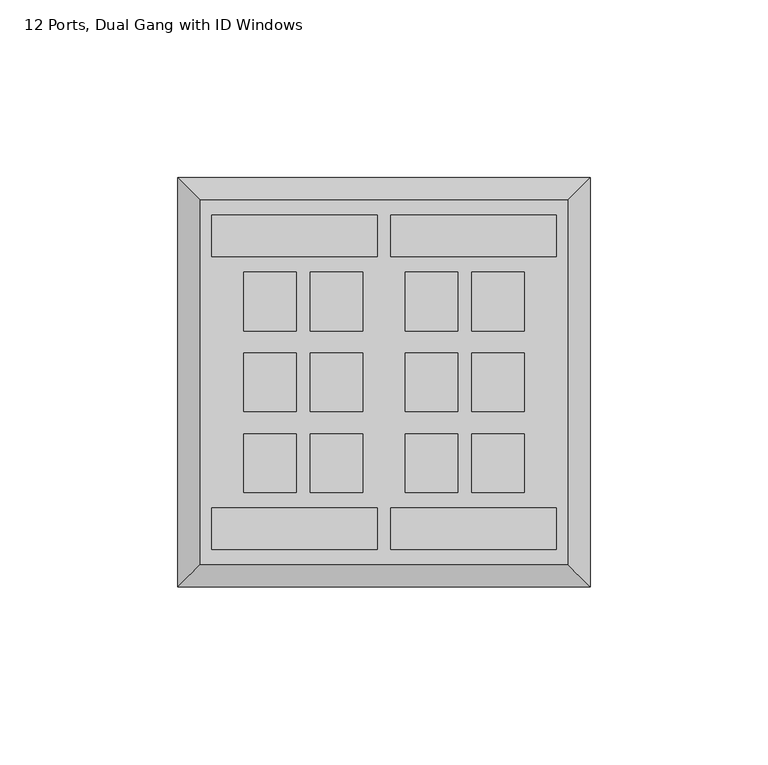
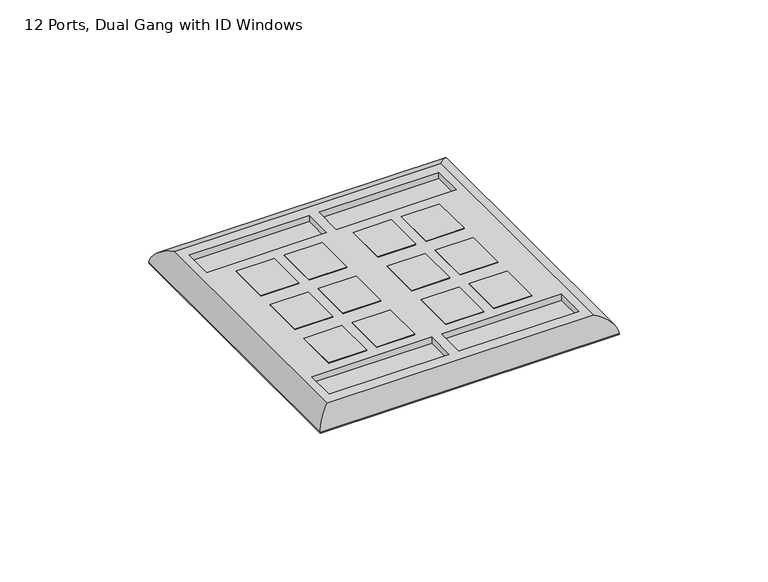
"""IFC4 building model written with IfcOpenShell, lengths in millimetres: electric appliance geometry, Data_Device-Work_Area-Leviton-QuickPort-Wallplate : 12 Ports, Dual Gang with ID Windows."""

from ifc_helpers import new_model, si_unit, frame, origin, origin_with_axes, place, context, project, spatial, polyline, ellipse_curve, outline, extrude, source, transform, mapped, element, save
from ifc_brep_helpers import plane_surface, cylinder_surface, advanced_brep


def electric_appliance_12_ports_dual_gang_with_id_windows_d9852d5b(model_context):
    return source(origin(), model_context, "Body", "SolidModel", [
        extrude(outline(polyline([(-29.0195, 16.4465), (-29.0195, -0.0635), (-43.7515, -0.0635), (-43.7515, 16.4465), (-29.0195, 16.4465)])), origin_with_axes(), (0.0, 0.0, 1.0), 6.35),
        extrude(outline(polyline([(-29.0195, 39.1795), (-29.0195, 22.6695), (-43.7515, 22.6695), (-43.7515, 39.1795), (-29.0195, 39.1795)])), origin_with_axes(), (0.0, 0.0, 1.0), 6.35),
        extrude(outline(polyline([(-29.0195, -6.2865), (-29.0195, -22.7965), (-43.7515, -22.7965), (-43.7515, -6.2865), (-29.0195, -6.2865)])), origin_with_axes(), (0.0, 0.0, 1.0), 6.35),
        extrude(outline(polyline([(-2.2987, 16.4465), (-2.2987, -0.0635), (-17.0307, -0.0635), (-17.0307, 16.4465), (-2.2987, 16.4465)])), origin_with_axes(), (0.0, 0.0, 1.0), 6.35),
        extrude(outline(polyline([(-2.2987, 39.1795), (-2.2987, 22.6695), (-17.0307, 22.6695), (-17.0307, 39.1795), (-2.2987, 39.1795)])), origin_with_axes(), (0.0, 0.0, 1.0), 6.35),
        extrude(outline(polyline([(-2.2987, -6.2865), (-2.2987, -22.7965), (-17.0307, -22.7965), (-17.0307, -6.2865), (-2.2987, -6.2865)])), origin_with_axes(), (0.0, 0.0, 1.0), 6.35),
        extrude(outline(polyline([(-47.6885, 16.4465), (-47.6885, -0.0635), (-62.4205, -0.0635), (-62.4205, 16.4465), (-47.6885, 16.4465)])), origin_with_axes(), (0.0, 0.0, 1.0), 6.35),
        extrude(outline(polyline([(-47.6885, 39.1795), (-47.6885, 22.6695), (-62.4205, 22.6695), (-62.4205, 39.1795), (-47.6885, 39.1795)])), origin_with_axes(), (0.0, 0.0, 1.0), 6.35),
        extrude(outline(polyline([(-47.6885, -6.2865), (-47.6885, -22.7965), (-62.4205, -22.7965), (-62.4205, -6.2865), (-47.6885, -6.2865)])), origin_with_axes(), (0.0, 0.0, 1.0), 6.35),
        extrude(outline(polyline([(16.3703, 16.4465), (16.3703, -0.0635), (1.6383, -0.0635), (1.6383, 16.4465), (16.3703, 16.4465)])), origin_with_axes(), (0.0, 0.0, 1.0), 6.35),
        extrude(outline(polyline([(16.3703, 39.1795), (16.3703, 22.6695), (1.6383, 22.6695), (1.6383, 39.1795), (16.3703, 39.1795)])), origin_with_axes(), (0.0, 0.0, 1.0), 6.35),
        extrude(outline(polyline([(16.3703, -6.2865), (16.3703, -22.7965), (1.6383, -22.7965), (1.6383, -6.2865), (16.3703, -6.2865)])), origin_with_axes(), (0.0, 0.0, 1.0), 6.35),
        advanced_brep(
        [(28.575, -42.9895, 6.35), (28.575, 59.3725, 6.35), (-74.6252, 59.3725, 6.35), (-74.6252, -42.9895, 6.35), (-71.44004, 55.1815, 6.35), (-24.95804, 55.1815, 6.35), (-24.95804, 43.4975, 6.35), (-71.44004, 43.4975, 6.35), (-21.09216, 43.4975, 6.35), (-21.09216, 55.1815, 6.35), (25.38984, 55.1815, 6.35), (25.38984, 43.4975, 6.35), (-43.7515, 39.1795, 6.35), (-29.0195, 39.1795, 6.35), (-29.0195, 22.6695, 6.35), (-43.7515, 22.6695, 6.35), (-43.7515, 16.4465, 6.35), (-29.0195, 16.4465, 6.35), (-29.0195, -0.0635, 6.35), (-43.7515, -0.0635, 6.35), (-43.7515, -6.2865, 6.35), (-29.0195, -6.2865, 6.35), (-29.0195, -22.7965, 6.35), (-43.7515, -22.7965, 6.35), (-17.0307, 39.1795, 6.35), (-2.2987, 39.1795, 6.35), (-2.2987, 22.6695, 6.35), (-17.0307, 22.6695, 6.35), (-17.0307, 16.4465, 6.35), (-2.2987, 16.4465, 6.35), (-2.2987, -0.0635, 6.35), (-17.0307, -0.0635, 6.35), (-17.0307, -6.2865, 6.35), (-2.2987, -6.2865, 6.35), (-2.2987, -22.7965, 6.35), (-17.0307, -22.7965, 6.35), (-62.4205, 39.1795, 6.35), (-47.6885, 39.1795, 6.35), (-47.6885, 22.6695, 6.35), (-62.4205, 22.6695, 6.35), (-62.4205, 16.4465, 6.35), (-47.6885, 16.4465, 6.35), (-47.6885, -0.0635, 6.35), (-62.4205, -0.0635, 6.35), (-62.4205, -6.2865, 6.35), (-47.6885, -6.2865, 6.35), (-47.6885, -22.7965, 6.35), (-62.4205, -22.7965, 6.35), (1.6383, 39.1795, 6.35), (16.3703, 39.1795, 6.35), (16.3703, 22.6695, 6.35), (1.6383, 22.6695, 6.35), (1.6383, 16.4465, 6.35), (16.3703, 16.4465, 6.35), (16.3703, -0.0635, 6.35), (1.6383, -0.0635, 6.35), (1.6383, -6.2865, 6.35), (16.3703, -6.2865, 6.35), (16.3703, -22.7965, 6.35), (1.6383, -22.7965, 6.35), (-71.44004, -27.1145, 6.35), (-24.95804, -27.1145, 6.35), (-24.95804, -38.7985, 6.35), (-71.44004, -38.7985, 6.35), (-21.09216, -27.1145, 6.35), (25.38984, -27.1145, 6.35), (25.38984, -38.7985, 6.35), (-21.09216, -38.7985, 6.35), (34.925, 65.7225, 0.0), (34.925, -49.3395, 0.0), (-80.9752, -49.3395, 0.0), (-80.9752, 65.7225, 0.0), (-29.0195, 39.1795, 0.0), (-43.7515, 39.1795, 0.0), (-43.7515, 22.6695, 0.0), (-29.0195, 22.6695, 0.0), (-29.0195, 16.4465, 0.0), (-43.7515, 16.4465, 0.0), (-43.7515, -0.0635, 0.0), (-29.0195, -0.0635, 0.0), (-29.0195, -6.2865, 0.0), (-43.7515, -6.2865, 0.0), (-43.7515, -22.7965, 0.0), (-29.0195, -22.7965, 0.0), (-2.2987, 39.1795, 0.0), (-17.0307, 39.1795, 0.0), (-17.0307, 22.6695, 0.0), (-2.2987, 22.6695, 0.0), (-2.2987, 16.4465, 0.0), (-17.0307, 16.4465, 0.0), (-17.0307, -0.0635, 0.0), (-2.2987, -0.0635, 0.0), (-2.2987, -6.2865, 0.0), (-17.0307, -6.2865, 0.0), (-17.0307, -22.7965, 0.0), (-2.2987, -22.7965, 0.0), (-47.6885, 39.1795, 0.0), (-62.4205, 39.1795, 0.0), (-62.4205, 22.6695, 0.0), (-47.6885, 22.6695, 0.0), (-47.6885, 16.4465, 0.0), (-62.4205, 16.4465, 0.0), (-62.4205, -0.0635, 0.0), (-47.6885, -0.0635, 0.0), (-47.6885, -6.2865, 0.0), (-62.4205, -6.2865, 0.0), (-62.4205, -22.7965, 0.0), (-47.6885, -22.7965, 0.0), (16.3703, 39.1795, 0.0), (1.6383, 39.1795, 0.0), (1.6383, 22.6695, 0.0), (16.3703, 22.6695, 0.0), (16.3703, 16.4465, 0.0), (1.6383, 16.4465, 0.0), (1.6383, -0.0635, 0.0), (16.3703, -0.0635, 0.0), (16.3703, -6.2865, 0.0), (1.6383, -6.2865, 0.0), (1.6383, -22.7965, 0.0), (16.3703, -22.7965, 0.0), (-80.9752, 65.7225, 0.254), (34.925, 65.7225, 0.254), (-80.9752, -49.3395, 0.254), (34.925, -49.3395, 0.254), (-24.95804, 55.1815, 3.81), (-71.44004, 55.1815, 3.81), (-71.44004, 43.4975, 3.81), (-24.95804, 43.4975, 3.81), (-21.09216, 55.1815, 3.81), (-21.09216, 43.4975, 3.81), (25.38984, 43.4975, 3.81), (25.38984, 55.1815, 3.81), (-24.95804, -27.1145, 3.81), (-71.44004, -27.1145, 3.81), (-71.44004, -38.7985, 3.81), (-24.95804, -38.7985, 3.81), (25.38984, -27.1145, 3.81), (-21.09216, -27.1145, 3.81), (-21.09216, -38.7985, 3.81), (25.38984, -38.7985, 3.81)],
        [
            (0, 1),
            (1, 2),
            (2, 3),
            (3, 0),
            (4, 5),
            (5, 6),
            (6, 7),
            (7, 4),
            (8, 9),
            (9, 10),
            (10, 11),
            (11, 8),
            (12, 13),
            (13, 14),
            (14, 15),
            (15, 12),
            (16, 17),
            (17, 18),
            (18, 19),
            (19, 16),
            (20, 21),
            (21, 22),
            (22, 23),
            (23, 20),
            (24, 25),
            (25, 26),
            (26, 27),
            (27, 24),
            (28, 29),
            (29, 30),
            (30, 31),
            (31, 28),
            (32, 33),
            (33, 34),
            (34, 35),
            (35, 32),
            (36, 37),
            (37, 38),
            (38, 39),
            (39, 36),
            (40, 41),
            (41, 42),
            (42, 43),
            (43, 40),
            (44, 45),
            (45, 46),
            (46, 47),
            (47, 44),
            (48, 49),
            (49, 50),
            (50, 51),
            (51, 48),
            (52, 53),
            (53, 54),
            (54, 55),
            (55, 52),
            (56, 57),
            (57, 58),
            (58, 59),
            (59, 56),
            (60, 61),
            (61, 62),
            (62, 63),
            (63, 60),
            (64, 65),
            (65, 66),
            (66, 67),
            (67, 64),
            (68, 69),
            (69, 70),
            (70, 71),
            (71, 68),
            (72, 73),
            (73, 74),
            (74, 75),
            (75, 72),
            (76, 77),
            (77, 78),
            (78, 79),
            (79, 76),
            (80, 81),
            (81, 82),
            (82, 83),
            (83, 80),
            (84, 85),
            (85, 86),
            (86, 87),
            (87, 84),
            (88, 89),
            (89, 90),
            (90, 91),
            (91, 88),
            (92, 93),
            (93, 94),
            (94, 95),
            (95, 92),
            (96, 97),
            (97, 98),
            (98, 99),
            (99, 96),
            (100, 101),
            (101, 102),
            (102, 103),
            (103, 100),
            (104, 105),
            (105, 106),
            (106, 107),
            (107, 104),
            (108, 109),
            (109, 110),
            (110, 111),
            (111, 108),
            (112, 113),
            (113, 114),
            (114, 115),
            (115, 112),
            (116, 117),
            (117, 118),
            (118, 119),
            (119, 116),
            (71, 120),
            (120, 121),
            (121, 68),
            (70, 122),
            (122, 120),
            (69, 123),
            (123, 122),
            (121, 123),
            (124, 125),
            (125, 126),
            (126, 127),
            (127, 124),
            (128, 129),
            (129, 130),
            (130, 131),
            (131, 128),
            (124, 5),
            (4, 125),
            (7, 126),
            (6, 127),
            (128, 9),
            (8, 129),
            (11, 130),
            (10, 131),
            (12, 73),
            (72, 13),
            (15, 74),
            (14, 75),
            (16, 77),
            (76, 17),
            (19, 78),
            (18, 79),
            (20, 81),
            (80, 21),
            (23, 82),
            (22, 83),
            (24, 85),
            (84, 25),
            (27, 86),
            (26, 87),
            (28, 89),
            (88, 29),
            (31, 90),
            (30, 91),
            (32, 93),
            (92, 33),
            (35, 94),
            (34, 95),
            (36, 97),
            (96, 37),
            (39, 98),
            (38, 99),
            (40, 101),
            (100, 41),
            (43, 102),
            (42, 103),
            (44, 105),
            (104, 45),
            (47, 106),
            (46, 107),
            (48, 109),
            (108, 49),
            (51, 110),
            (50, 111),
            (52, 113),
            (112, 53),
            (55, 114),
            (54, 115),
            (56, 117),
            (116, 57),
            (59, 118),
            (58, 119),
            (132, 133),
            (133, 134),
            (134, 135),
            (135, 132),
            (136, 137),
            (137, 138),
            (138, 139),
            (139, 136),
            (132, 61),
            (60, 133),
            (63, 134),
            (62, 135),
            (136, 65),
            (64, 137),
            (67, 138),
            (66, 139),
            (0, 123, ellipse_curve(frame((28.575, -42.9895, -0.0052917), z_axis=(0.7071067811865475, 0.7071067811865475, 0.0), x_axis=(0.7071067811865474, -0.7071067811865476, 0.0)), 8.9877397, 6.3552917)),
            (121, 1, ellipse_curve(frame((28.575, 59.3725, -0.0052917), z_axis=(0.7071067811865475, -0.7071067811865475, 0.0), x_axis=(-0.7071067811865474, -0.7071067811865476, 0.0)), 8.9877397, 6.3552917)),
            (3, 122, ellipse_curve(frame((-74.6252, -42.9895, -0.0052917), z_axis=(0.7071067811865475, -0.7071067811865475, 0.0), x_axis=(-0.7071067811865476, -0.7071067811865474, 0.0)), 8.9877397, 6.3552917)),
            (2, 120, ellipse_curve(frame((-74.6252, 59.3725, -0.0052917), z_axis=(-0.7071067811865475, -0.7071067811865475, 0.0), x_axis=(-0.7071067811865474, 0.7071067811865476, 0.0)), 8.9877397, 6.3552917)),
        ],
        [
            plane_surface(frame((-80.9752, 65.7225, 6.35), z_axis=(0.0, 0.0, 1.0), x_axis=(-1.0, 0.0, 0.0))),
            plane_surface(frame((-80.9752, 65.7225, 0.0), z_axis=(0.0, 0.0, -1.0), x_axis=(1.0, 0.0, 0.0))),
            plane_surface(frame((34.925, 65.7225, 6.35), z_axis=(0.0, 1.0, 0.0), x_axis=(0.0, 0.0, -1.0))),
            plane_surface(frame((-80.9752, 65.7225, 6.35), z_axis=(-1.0, 0.0, 0.0), x_axis=(0.0, 0.0, -1.0))),
            plane_surface(frame((-80.9752, -49.3395, 6.35), z_axis=(0.0, -1.0, 0.0), x_axis=(0.0, 0.0, -1.0))),
            plane_surface(frame((34.925, -49.3395, 6.35), z_axis=(1.0, 0.0, 0.0), x_axis=(0.0, 0.0, -1.0))),
            plane_surface(frame((-71.44004, 55.1815, 3.81), z_axis=(0.0, 0.0, 1.0), x_axis=(1.0, 0.0, 0.0))),
            plane_surface(frame((-24.95804, 55.1815, 6.35), z_axis=(0.0, -1.0, 0.0), x_axis=(0.0, 0.0, -1.0))),
            plane_surface(frame((-71.44004, 55.1815, 6.35), z_axis=(1.0, 0.0, 0.0), x_axis=(0.0, 0.0, -1.0))),
            plane_surface(frame((-71.44004, 43.4975, 6.35), z_axis=(0.0, 1.0, 0.0), x_axis=(0.0, 0.0, -1.0))),
            plane_surface(frame((-24.95804, 43.4975, 6.35), z_axis=(-1.0, 0.0, 0.0), x_axis=(0.0, 0.0, -1.0))),
            plane_surface(frame((-21.09216, 55.1815, 6.35), z_axis=(1.0, 0.0, 0.0), x_axis=(0.0, 0.0, -1.0))),
            plane_surface(frame((-21.09216, 43.4975, 6.35), z_axis=(0.0, 1.0, 0.0), x_axis=(0.0, 0.0, -1.0))),
            plane_surface(frame((25.38984, 43.4975, 6.35), z_axis=(-1.0, 0.0, 0.0), x_axis=(0.0, 0.0, -1.0))),
            plane_surface(frame((25.38984, 55.1815, 6.35), z_axis=(0.0, -1.0, 0.0), x_axis=(0.0, 0.0, -1.0))),
            plane_surface(frame((-29.0195, 39.1795, 6.35), z_axis=(0.0, -1.0, 0.0), x_axis=(0.0, 0.0, -1.0))),
            plane_surface(frame((-43.7515, 39.1795, 6.35), z_axis=(1.0, 0.0, 0.0), x_axis=(0.0, 0.0, -1.0))),
            plane_surface(frame((-43.7515, 22.6695, 6.35), z_axis=(0.0, 1.0, 0.0), x_axis=(0.0, 0.0, -1.0))),
            plane_surface(frame((-29.0195, 22.6695, 6.35), z_axis=(-1.0, 0.0, 0.0), x_axis=(0.0, 0.0, -1.0))),
            plane_surface(frame((-29.0195, 16.4465, 6.35), z_axis=(0.0, -1.0, 0.0), x_axis=(0.0, 0.0, -1.0))),
            plane_surface(frame((-43.7515, 16.4465, 6.35), z_axis=(1.0, 0.0, 0.0), x_axis=(0.0, 0.0, -1.0))),
            plane_surface(frame((-43.7515, -0.0635, 6.35), z_axis=(0.0, 1.0, 0.0), x_axis=(0.0, 0.0, -1.0))),
            plane_surface(frame((-29.0195, -0.0635, 6.35), z_axis=(-1.0, 0.0, 0.0), x_axis=(0.0, 0.0, -1.0))),
            plane_surface(frame((-29.0195, -6.2865, 6.35), z_axis=(0.0, -1.0, 0.0), x_axis=(0.0, 0.0, -1.0))),
            plane_surface(frame((-43.7515, -6.2865, 6.35), z_axis=(1.0, 0.0, 0.0), x_axis=(0.0, 0.0, -1.0))),
            plane_surface(frame((-43.7515, -22.7965, 6.35), z_axis=(0.0, 1.0, 0.0), x_axis=(0.0, 0.0, -1.0))),
            plane_surface(frame((-29.0195, -22.7965, 6.35), z_axis=(-1.0, 0.0, 0.0), x_axis=(0.0, 0.0, -1.0))),
            plane_surface(frame((-2.2987, 39.1795, 6.35), z_axis=(0.0, -1.0, 0.0), x_axis=(0.0, 0.0, -1.0))),
            plane_surface(frame((-17.0307, 39.1795, 6.35), z_axis=(1.0, 0.0, 0.0), x_axis=(0.0, 0.0, -1.0))),
            plane_surface(frame((-17.0307, 22.6695, 6.35), z_axis=(0.0, 1.0, 0.0), x_axis=(0.0, 0.0, -1.0))),
            plane_surface(frame((-2.2987, 22.6695, 6.35), z_axis=(-1.0, 0.0, 0.0), x_axis=(0.0, 0.0, -1.0))),
            plane_surface(frame((-2.2987, 16.4465, 6.35), z_axis=(0.0, -1.0, 0.0), x_axis=(0.0, 0.0, -1.0))),
            plane_surface(frame((-17.0307, 16.4465, 6.35), z_axis=(1.0, 0.0, 0.0), x_axis=(0.0, 0.0, -1.0))),
            plane_surface(frame((-17.0307, -0.0635, 6.35), z_axis=(0.0, 1.0, 0.0), x_axis=(0.0, 0.0, -1.0))),
            plane_surface(frame((-2.2987, -0.0635, 6.35), z_axis=(-1.0, 0.0, 0.0), x_axis=(0.0, 0.0, -1.0))),
            plane_surface(frame((-2.2987, -6.2865, 6.35), z_axis=(0.0, -1.0, 0.0), x_axis=(0.0, 0.0, -1.0))),
            plane_surface(frame((-17.0307, -6.2865, 6.35), z_axis=(1.0, 0.0, 0.0), x_axis=(0.0, 0.0, -1.0))),
            plane_surface(frame((-17.0307, -22.7965, 6.35), z_axis=(0.0, 1.0, 0.0), x_axis=(0.0, 0.0, -1.0))),
            plane_surface(frame((-2.2987, -22.7965, 6.35), z_axis=(-1.0, 0.0, 0.0), x_axis=(0.0, 0.0, -1.0))),
            plane_surface(frame((-47.6885, 39.1795, 6.35), z_axis=(0.0, -1.0, 0.0), x_axis=(0.0, 0.0, -1.0))),
            plane_surface(frame((-62.4205, 39.1795, 6.35), z_axis=(1.0, 0.0, 0.0), x_axis=(0.0, 0.0, -1.0))),
            plane_surface(frame((-62.4205, 22.6695, 6.35), z_axis=(0.0, 1.0, 0.0), x_axis=(0.0, 0.0, -1.0))),
            plane_surface(frame((-47.6885, 22.6695, 6.35), z_axis=(-1.0, 0.0, 0.0), x_axis=(0.0, 0.0, -1.0))),
            plane_surface(frame((-47.6885, 16.4465, 6.35), z_axis=(0.0, -1.0, 0.0), x_axis=(0.0, 0.0, -1.0))),
            plane_surface(frame((-62.4205, 16.4465, 6.35), z_axis=(1.0, 0.0, 0.0), x_axis=(0.0, 0.0, -1.0))),
            plane_surface(frame((-62.4205, -0.0635, 6.35), z_axis=(0.0, 1.0, 0.0), x_axis=(0.0, 0.0, -1.0))),
            plane_surface(frame((-47.6885, -0.0635, 6.35), z_axis=(-1.0, 0.0, 0.0), x_axis=(0.0, 0.0, -1.0))),
            plane_surface(frame((-47.6885, -6.2865, 6.35), z_axis=(0.0, -1.0, 0.0), x_axis=(0.0, 0.0, -1.0))),
            plane_surface(frame((-62.4205, -6.2865, 6.35), z_axis=(1.0, 0.0, 0.0), x_axis=(0.0, 0.0, -1.0))),
            plane_surface(frame((-62.4205, -22.7965, 6.35), z_axis=(0.0, 1.0, 0.0), x_axis=(0.0, 0.0, -1.0))),
            plane_surface(frame((-47.6885, -22.7965, 6.35), z_axis=(-1.0, 0.0, 0.0), x_axis=(0.0, 0.0, -1.0))),
            plane_surface(frame((16.3703, 39.1795, 6.35), z_axis=(0.0, -1.0, 0.0), x_axis=(0.0, 0.0, -1.0))),
            plane_surface(frame((1.6383, 39.1795, 6.35), z_axis=(1.0, 0.0, 0.0), x_axis=(0.0, 0.0, -1.0))),
            plane_surface(frame((1.6383, 22.6695, 6.35), z_axis=(0.0, 1.0, 0.0), x_axis=(0.0, 0.0, -1.0))),
            plane_surface(frame((16.3703, 22.6695, 6.35), z_axis=(-1.0, 0.0, 0.0), x_axis=(0.0, 0.0, -1.0))),
            plane_surface(frame((16.3703, 16.4465, 6.35), z_axis=(0.0, -1.0, 0.0), x_axis=(0.0, 0.0, -1.0))),
            plane_surface(frame((1.6383, 16.4465, 6.35), z_axis=(1.0, 0.0, 0.0), x_axis=(0.0, 0.0, -1.0))),
            plane_surface(frame((1.6383, -0.0635, 6.35), z_axis=(0.0, 1.0, 0.0), x_axis=(0.0, 0.0, -1.0))),
            plane_surface(frame((16.3703, -0.0635, 6.35), z_axis=(-1.0, 0.0, 0.0), x_axis=(0.0, 0.0, -1.0))),
            plane_surface(frame((16.3703, -6.2865, 6.35), z_axis=(0.0, -1.0, 0.0), x_axis=(0.0, 0.0, -1.0))),
            plane_surface(frame((1.6383, -6.2865, 6.35), z_axis=(1.0, 0.0, 0.0), x_axis=(0.0, 0.0, -1.0))),
            plane_surface(frame((1.6383, -22.7965, 6.35), z_axis=(0.0, 1.0, 0.0), x_axis=(0.0, 0.0, -1.0))),
            plane_surface(frame((16.3703, -22.7965, 6.35), z_axis=(-1.0, 0.0, 0.0), x_axis=(0.0, 0.0, -1.0))),
            plane_surface(frame((-71.44004, -27.1145, 3.81), z_axis=(0.0, 0.0, 1.0), x_axis=(1.0, 0.0, 0.0))),
            plane_surface(frame((-24.95804, -27.1145, 6.35), z_axis=(0.0, -1.0, 0.0), x_axis=(0.0, 0.0, -1.0))),
            plane_surface(frame((-71.44004, -27.1145, 6.35), z_axis=(1.0, 0.0, 0.0), x_axis=(0.0, 0.0, -1.0))),
            plane_surface(frame((-71.44004, -38.7985, 6.35), z_axis=(0.0, 1.0, 0.0), x_axis=(0.0, 0.0, -1.0))),
            plane_surface(frame((-24.95804, -38.7985, 6.35), z_axis=(-1.0, 0.0, 0.0), x_axis=(0.0, 0.0, -1.0))),
            plane_surface(frame((25.38984, -27.1145, 6.35), z_axis=(0.0, -1.0, 0.0), x_axis=(0.0, 0.0, -1.0))),
            plane_surface(frame((-21.09216, -27.1145, 6.35), z_axis=(1.0, 0.0, 0.0), x_axis=(0.0, 0.0, -1.0))),
            plane_surface(frame((-21.09216, -38.7985, 6.35), z_axis=(0.0, 1.0, 0.0), x_axis=(0.0, 0.0, -1.0))),
            plane_surface(frame((25.38984, -38.7985, 6.35), z_axis=(-1.0, 0.0, 0.0), x_axis=(0.0, 0.0, -1.0))),
            cylinder_surface(frame((28.575, 65.7225, -0.0052917), z_axis=(0.0, -1.0, 0.0), x_axis=(1.0, 0.0, 0.0)), 6.3552917),
            cylinder_surface(frame((34.925, -42.9895, -0.0052917), z_axis=(-1.0, 0.0, 0.0), x_axis=(0.0, -1.0, 0.0)), 6.3552917),
            cylinder_surface(frame((-74.6252, -49.3395, -0.0052917), z_axis=(0.0, 1.0, 0.0), x_axis=(-1.0, 0.0, 0.0)), 6.3552917),
            cylinder_surface(frame((-80.9752, 59.3725, -0.0052917), z_axis=(1.0, 0.0, 0.0), x_axis=(0.0, 1.0, 0.0)), 6.3552917),
        ],
        [
            (0, [[1, 2, 3, 4], [5, 6, 7, 8], [9, 10, 11, 12], [13, 14, 15, 16], [17, 18, 19, 20], [21, 22, 23, 24], [25, 26, 27, 28], [29, 30, 31, 32], [33, 34, 35, 36], [37, 38, 39, 40], [41, 42, 43, 44], [45, 46, 47, 48], [49, 50, 51, 52], [53, 54, 55, 56], [57, 58, 59, 60], [61, 62, 63, 64], [65, 66, 67, 68]]),
            (1, [[69, 70, 71, 72], [73, 74, 75, 76], [77, 78, 79, 80], [81, 82, 83, 84], [85, 86, 87, 88], [89, 90, 91, 92], [93, 94, 95, 96], [97, 98, 99, 100], [101, 102, 103, 104], [105, 106, 107, 108], [109, 110, 111, 112], [113, 114, 115, 116], [117, 118, 119, 120]]),
            (2, [[-72, 121, 122, 123]]),
            (3, [[-71, 124, 125, -121]]),
            (4, [[-70, 126, 127, -124]]),
            (5, [[-69, -123, 128, -126]]),
            (6, [[129, 130, 131, 132]]),
            (6, [[133, 134, 135, 136]]),
            (7, [[-129, 137, -5, 138]]),
            (8, [[-130, -138, -8, 139]]),
            (9, [[-131, -139, -7, 140]]),
            (10, [[-132, -140, -6, -137]]),
            (11, [[-133, 141, -9, 142]]),
            (12, [[-134, -142, -12, 143]]),
            (13, [[-135, -143, -11, 144]]),
            (14, [[-136, -144, -10, -141]]),
            (15, [[145, -73, 146, -13]]),
            (16, [[-145, -16, 147, -74]]),
            (17, [[-147, -15, 148, -75]]),
            (18, [[-146, -76, -148, -14]]),
            (19, [[149, -77, 150, -17]]),
            (20, [[-149, -20, 151, -78]]),
            (21, [[-151, -19, 152, -79]]),
            (22, [[-150, -80, -152, -18]]),
            (23, [[153, -81, 154, -21]]),
            (24, [[-153, -24, 155, -82]]),
            (25, [[-155, -23, 156, -83]]),
            (26, [[-154, -84, -156, -22]]),
            (27, [[157, -85, 158, -25]]),
            (28, [[-157, -28, 159, -86]]),
            (29, [[-159, -27, 160, -87]]),
            (30, [[-158, -88, -160, -26]]),
            (31, [[161, -89, 162, -29]]),
            (32, [[-161, -32, 163, -90]]),
            (33, [[-163, -31, 164, -91]]),
            (34, [[-162, -92, -164, -30]]),
            (35, [[165, -93, 166, -33]]),
            (36, [[-165, -36, 167, -94]]),
            (37, [[-167, -35, 168, -95]]),
            (38, [[-166, -96, -168, -34]]),
            (39, [[169, -97, 170, -37]]),
            (40, [[-169, -40, 171, -98]]),
            (41, [[-171, -39, 172, -99]]),
            (42, [[-170, -100, -172, -38]]),
            (43, [[173, -101, 174, -41]]),
            (44, [[-173, -44, 175, -102]]),
            (45, [[-175, -43, 176, -103]]),
            (46, [[-174, -104, -176, -42]]),
            (47, [[177, -105, 178, -45]]),
            (48, [[-177, -48, 179, -106]]),
            (49, [[-179, -47, 180, -107]]),
            (50, [[-178, -108, -180, -46]]),
            (51, [[181, -109, 182, -49]]),
            (52, [[-181, -52, 183, -110]]),
            (53, [[-183, -51, 184, -111]]),
            (54, [[-182, -112, -184, -50]]),
            (55, [[185, -113, 186, -53]]),
            (56, [[-185, -56, 187, -114]]),
            (57, [[-187, -55, 188, -115]]),
            (58, [[-186, -116, -188, -54]]),
            (59, [[189, -117, 190, -57]]),
            (60, [[-189, -60, 191, -118]]),
            (61, [[-191, -59, 192, -119]]),
            (62, [[-190, -120, -192, -58]]),
            (63, [[193, 194, 195, 196]]),
            (63, [[197, 198, 199, 200]]),
            (64, [[-193, 201, -61, 202]]),
            (65, [[-194, -202, -64, 203]]),
            (66, [[-195, -203, -63, 204]]),
            (67, [[-196, -204, -62, -201]]),
            (68, [[-197, 205, -65, 206]]),
            (69, [[-198, -206, -68, 207]]),
            (70, [[-199, -207, -67, 208]]),
            (71, [[-200, -208, -66, -205]]),
            (72, [[209, -128, 210, -1]]),
            (73, [[-209, -4, 211, -127]]),
            (74, [[-211, -3, 212, -125]]),
            (75, [[-210, -122, -212, -2]]),
        ],
    ),
        extrude(outline(polyline([(34.671, 65.4685), (34.671, -49.0855), (-80.7212, -49.0855), (-80.7212, 65.4685), (34.671, 65.4685)]), holes=[polyline([(-29.0195, 39.1795), (-43.7515, 39.1795), (-43.7515, 22.6695), (-29.0195, 22.6695), (-29.0195, 39.1795)]), polyline([(-29.0195, 16.4465), (-43.7515, 16.4465), (-43.7515, -0.0635), (-29.0195, -0.0635), (-29.0195, 16.4465)]), polyline([(-29.0195, -6.2865), (-43.7515, -6.2865), (-43.7515, -22.7965), (-29.0195, -22.7965), (-29.0195, -6.2865)]), polyline([(-2.2987, 39.1795), (-17.0307, 39.1795), (-17.0307, 22.6695), (-2.2987, 22.6695), (-2.2987, 39.1795)]), polyline([(-2.2987, 16.4465), (-17.0307, 16.4465), (-17.0307, -0.0635), (-2.2987, -0.0635), (-2.2987, 16.4465)]), polyline([(-2.2987, -6.2865), (-17.0307, -6.2865), (-17.0307, -22.7965), (-2.2987, -22.7965), (-2.2987, -6.2865)]), polyline([(-47.6885, 39.1795), (-62.4205, 39.1795), (-62.4205, 22.6695), (-47.6885, 22.6695), (-47.6885, 39.1795)]), polyline([(-47.6885, 16.4465), (-62.4205, 16.4465), (-62.4205, -0.0635), (-47.6885, -0.0635), (-47.6885, 16.4465)]), polyline([(-47.6885, -6.2865), (-62.4205, -6.2865), (-62.4205, -22.7965), (-47.6885, -22.7965), (-47.6885, -6.2865)]), polyline([(16.3703, 39.1795), (1.6383, 39.1795), (1.6383, 22.6695), (16.3703, 22.6695), (16.3703, 39.1795)]), polyline([(16.3703, 16.4465), (1.6383, 16.4465), (1.6383, -0.0635), (16.3703, -0.0635), (16.3703, 16.4465)]), polyline([(16.3703, -6.2865), (1.6383, -6.2865), (1.6383, -22.7965), (16.3703, -22.7965), (16.3703, -6.2865)])]), origin_with_axes(), (0.0, 0.0, 1.0), 0.254),
    ])


if __name__ == "__main__":
    model = new_model("IFC4")
    model_context = context("Model", 3, world=origin())
    ifc_project = project(units=[si_unit("LENGTHUNIT", "METRE", prefix="MILLI")], contexts=[model_context])
    site = spatial("IfcSite", under=ifc_project)
    building = spatial("IfcBuilding", under=site)
    placement = place(None, origin())
    electric_appliance_12_ports_dual_gang_with_id_windows_shape = electric_appliance_12_ports_dual_gang_with_id_windows_d9852d5b(model_context)
    element("IfcElectricAppliance", 1, ObjectType="Data_Device-Work_Area-Leviton-QuickPort-Wallplate : 12 Ports, Dual Gang with ID Windows", at=placement, inside=building, context=model_context, shape_type="MappedRepresentation", body=[
        mapped(electric_appliance_12_ports_dual_gang_with_id_windows_shape, transform((0.0, 0.0, 0.0), x_axis=(1.0, 0.0, 0.0), y_axis=(0.0, 1.0, 0.0), z_axis=(0.0, 0.0, 1.0))),
    ])
    save(model, "model.ifc")
